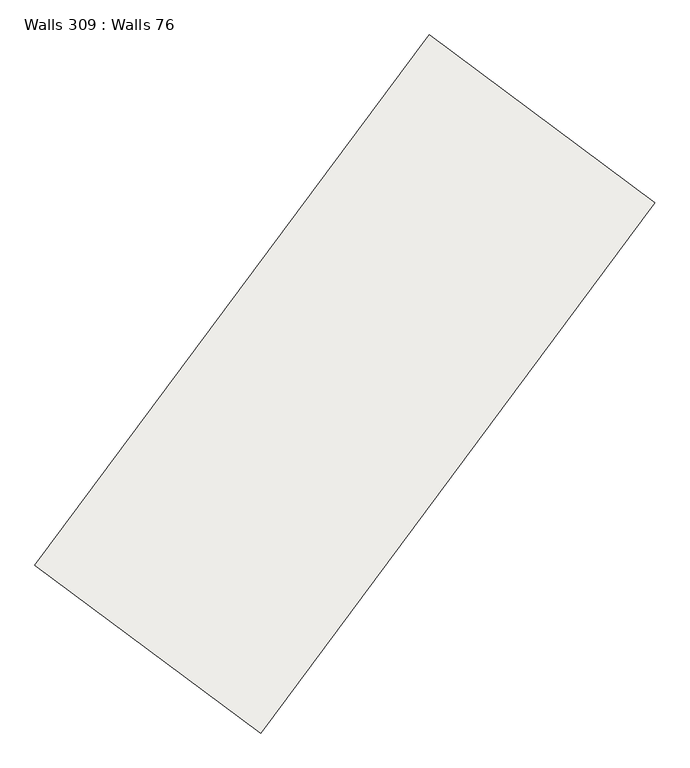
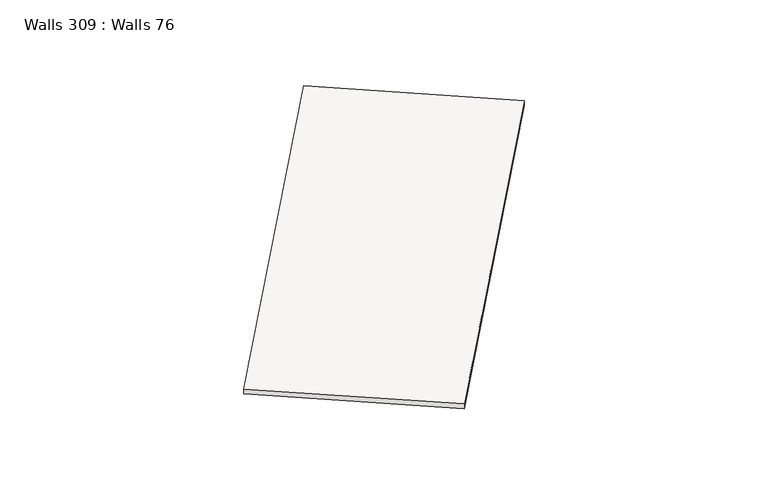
"""IFC4 building model written with IfcOpenShell, lengths in millimetres: slab geometry, Walls 309 : Walls 76."""

import ifcopenshell
import ifcopenshell.guid

model = None  # the IFC model being written
_history = None  # IfcOwnerHistory: only IFC2X3 demands one
_inside = {}  # id of a spatial element -> (the spatial element, [elements in it])
_under = {}  # id of a project, library or spatial element -> (it, [spatial elements below it])
_declared = {}  # id of a project -> (the project, [libraries it declares])
_typed = {}  # id of a type object -> (the type object, [elements of that type])
_made_of = {}  # id of a material, layer set ... -> (it, [elements and type objects made of it])


def new_model(schema):
    """Start an empty IFC model of exactly this schema.

    Asked for "IFC4X3", IfcOpenShell would pick the latest addendum, in which some entities
    have other attributes; the version numbers below select the first issue.
    IFC2X3 requires an IfcOwnerHistory on every rooted entity: one is made here for all.
    """
    global model, _history
    if schema == "IFC4X3":
        model = ifcopenshell.file(schema_version=(4, 3, 0, 0))
    else:
        model = ifcopenshell.file(schema=schema)
    _inside.clear()
    _under.clear()
    _declared.clear()
    _typed.clear()
    _made_of.clear()
    _history = None
    if model.schema == "IFC2X3":
        org = make("IfcOrganization", Name="unknown")
        user = make(
            "IfcPersonAndOrganization",
            ThePerson=make("IfcPerson", FamilyName="unknown"),
            TheOrganization=org,
        )
        app = make(
            "IfcApplication",
            ApplicationDeveloper=org,
            Version="unknown",
            ApplicationFullName="unknown",
            ApplicationIdentifier="unknown",
        )
        _history = make(
            "IfcOwnerHistory",
            OwningUser=user,
            OwningApplication=app,
            ChangeAction="ADDED",
            CreationDate=0,
        )
    return model


def make(cls, **values):
    """One entity of the class cls with the attributes given. An attribute that is None is left unset."""
    return model.create_entity(
        cls, **{name: value for name, value in values.items() if value is not None}
    )


def rooted(cls, **values):
    """An entity with a GlobalId (a new one), such as an element, a storey or a relation."""
    return make(cls, GlobalId=ifcopenshell.guid.new(), OwnerHistory=_history, **values)


def si_unit(unit_type, name, prefix=None):
    """IfcSIUnit, for example si_unit("LENGTHUNIT", "METRE", prefix="MILLI")."""
    return make("IfcSIUnit", UnitType=unit_type, Prefix=prefix, Name=name)


def assignment(units):
    """IfcUnitAssignment: the units of a project."""
    return None if units is None else make("IfcUnitAssignment", Units=units)


def point(xyz):
    """IfcCartesianPoint."""
    return None if xyz is None else make("IfcCartesianPoint", Coordinates=xyz)


def direction(xyz):
    """IfcDirection."""
    return None if xyz is None else make("IfcDirection", DirectionRatios=xyz)


def frame(location, z_axis=None, x_axis=None):
    """IfcAxis2Placement3D, a coordinate frame: its origin and axes. An axis left out is left unset."""
    return make(
        "IfcAxis2Placement3D",
        Location=point(location),
        Axis=direction(z_axis),
        RefDirection=direction(x_axis),
    )


def origin():
    """The frame at (0, 0, 0) with its axes left unset."""
    return frame((0.0, 0.0, 0.0))


def place(relative_to, where):
    """IfcLocalPlacement: puts the frame where relative to a parent placement (None: the world)."""
    return make(
        "IfcLocalPlacement", PlacementRelTo=relative_to, RelativePlacement=where
    )


def context(
    kind, dimensions, precision=None, world=None, true_north=None, identifier=None
):
    """IfcGeometricRepresentationContext, for example the 3D "Model" context."""
    return make(
        "IfcGeometricRepresentationContext",
        ContextIdentifier=identifier,
        ContextType=kind,
        CoordinateSpaceDimension=dimensions,
        Precision=precision,
        WorldCoordinateSystem=world,
        TrueNorth=true_north,
    )


def project(units=None, contexts=None):
    """IfcProject with its units and contexts."""
    return rooted(
        "IfcProject",
        Name="project",
        RepresentationContexts=contexts,
        UnitsInContext=assignment(units),
    )


def spatial(cls, under=None, at=None, **own):
    """A site, building, storey or space (cls), placed at a placement, below another one or the project."""
    s = rooted(cls, ObjectPlacement=at, **own)
    if under is not None:
        _under.setdefault(under.id(), (under, []))[1].append(s)
    return s


def faces_of(points, faces, orient=None, outer=None):
    """IfcFace entities. A face is a list of loops; a loop is a list of indices into points, from 0.

    orient and outer hold one flag for each loop. By default every Orientation is true, the
    first loop of a face is its IfcFaceOuterBound and the others are IfcFaceBound.
    """
    made = []
    for i, loops in enumerate(faces):
        bounds = []
        for j, loop in enumerate(loops):
            is_outer = j == 0 if outer is None else outer[i][j]
            bounds.append(
                make(
                    "IfcFaceOuterBound" if is_outer else "IfcFaceBound",
                    Bound=make("IfcPolyLoop", Polygon=[points[k] for k in loop]),
                    Orientation=True if orient is None else orient[i][j],
                )
            )
        made.append(make("IfcFace", Bounds=bounds))
    return made


def faceted_brep(points, faces, orient=None, outer=None, voids=None):
    """IfcFacetedBrep: a solid bounded by flat faces; with voids (closed shells), ...WithVoids."""
    shared = [point(p) for p in points]
    hull = make("IfcClosedShell", CfsFaces=faces_of(shared, faces, orient, outer))
    if voids is None:
        return make("IfcFacetedBrep", Outer=hull)
    return make(
        "IfcFacetedBrepWithVoids",
        Outer=hull,
        Voids=[
            make(cls, CfsFaces=faces_of(shared, fs, o, b)) for cls, fs, o, b in voids
        ],
    )


def shape(context_of_items, identifier, shape_type, items):
    """IfcShapeRepresentation: the items that make up one representation, for example the "Body"."""
    return make(
        "IfcShapeRepresentation",
        ContextOfItems=context_of_items,
        RepresentationIdentifier=identifier,
        RepresentationType=shape_type,
        Items=items,
    )


def source(mapping_origin, context_of_items, identifier, shape_type, items):
    """IfcRepresentationMap: a shape defined once, which mapped items show again and again."""
    return make(
        "IfcRepresentationMap",
        MappingOrigin=mapping_origin,
        MappedRepresentation=shape(context_of_items, identifier, shape_type, items),
    )


def transform(
    local_origin,
    x_axis=None,
    y_axis=None,
    z_axis=None,
    scale=None,
    scale2=None,
    scale3=None,
    uniform=True,
):
    """IfcCartesianTransformationOperator3D, or its non-uniform kind. x_axis, y_axis, z_axis: its Axis1, 2, 3."""
    if uniform:
        return make(
            "IfcCartesianTransformationOperator3D",
            Axis1=direction(x_axis),
            Axis2=direction(y_axis),
            LocalOrigin=point(local_origin),
            Scale=scale,
            Axis3=direction(z_axis),
        )
    return make(
        "IfcCartesianTransformationOperator3DnonUniform",
        Axis1=direction(x_axis),
        Axis2=direction(y_axis),
        LocalOrigin=point(local_origin),
        Scale=scale,
        Axis3=direction(z_axis),
        Scale2=scale2,
        Scale3=scale3,
    )


def mapped(mapping_source, mapping_target):
    """IfcMappedItem: shows the shape of a source again, moved by a transform."""
    return make(
        "IfcMappedItem", MappingSource=mapping_source, MappingTarget=mapping_target
    )


def made_of(thing, what):
    """Note that an element or type object is made of a material, layer set ...; save() writes the relation."""
    if what is not None:
        _made_of.setdefault(what.id(), (what, []))[1].append(thing)
    return thing


def element(
    cls,
    number,
    at=None,
    inside=None,
    cuts=None,
    type_object=None,
    material=None,
    context=None,
    identifier="Body",
    shape_type=None,
    held_by="IfcProductDefinitionShape",
    body=None,
    shapes=None,
    **own,
):
    """One element of the class cls, such as IfcWall. Its Tag is "e" and its number.

    at: its placement. inside: the storey or other place that contains it. cuts: it is an
    opening in that element (IfcRelVoidsElement). A single representation is given by context,
    identifier, shape_type and body (its items); several are given by shapes. held_by: the class
    of the entity that holds the representations. save() writes the other relations.
    """
    e = rooted(cls, Tag="e%d" % number, ObjectPlacement=at, **own)
    if body is not None:
        shapes = [shape(context, identifier, shape_type, body)]
    if shapes is not None:
        e.Representation = make(held_by, Representations=shapes)
    if inside is not None:
        _inside.setdefault(inside.id(), (inside, []))[1].append(e)
    if cuts is not None:
        rooted(
            "IfcRelVoidsElement", RelatingBuildingElement=cuts, RelatedOpeningElement=e
        )
    if type_object is not None:
        _typed.setdefault(type_object.id(), (type_object, []))[1].append(e)
    return made_of(e, material)


def aggregate(whole, parts):
    """IfcRelAggregates: a whole, such as a stair, and the parts it consists of."""
    return rooted("IfcRelAggregates", RelatingObject=whole, RelatedObjects=parts)


def save(model, path):
    """Write the relations noted so far, then the file.

    IfcRelAggregates (storeys below a building ...), IfcRelContainedInSpatialStructure (elements
    in a storey), IfcRelDefinesByType, IfcRelAssociatesMaterial and IfcRelDeclares: one each for
    every whole, place, type object, material and project.
    """
    for whole, parts in _under.values():
        aggregate(whole, parts)
    for where, things in _inside.values():
        rooted(
            "IfcRelContainedInSpatialStructure",
            RelatedElements=things,
            RelatingStructure=where,
        )
    for kind, things in _typed.values():
        rooted("IfcRelDefinesByType", RelatedObjects=things, RelatingType=kind)
    for what, things in _made_of.values():
        rooted("IfcRelAssociatesMaterial", RelatedObjects=things, RelatingMaterial=what)
    for by, libraries in _declared.values():
        rooted("IfcRelDeclares", RelatingContext=by, RelatedDefinitions=libraries)
    model.write(path)


def walls_309_walls_76_c2bd73b1(model_context):
    return source(origin(), model_context, "Body", "Brep", [
        faceted_brep([(73194.6150508, -73095.6232762, 639280.0), (73194.6150508, -73095.6232762, 639380.0), (76164.6854928, -75302.1321861, 639380.0), (76164.6854928, -75302.1321861, 639280.0), (68006.40228, -80079.2658774, 639150.0), (70976.472722, -82285.7747873, 639150.0), (70976.472722, -82285.7747873, 639250.0), (68006.40228, -80079.2658774, 639250.0)], [[[0, 1, 2, 3]], [[4, 5, 6, 7]], [[5, 4, 0, 3]], [[7, 6, 2, 1]], [[4, 7, 1, 0]], [[6, 5, 3, 2]]]),
    ])


if __name__ == "__main__":
    model = new_model("IFC4")
    model_context = context("Model", 3, world=origin())
    ifc_project = project(units=[si_unit("LENGTHUNIT", "METRE", prefix="MILLI")], contexts=[model_context])
    site = spatial("IfcSite", under=ifc_project)
    building = spatial("IfcBuilding", under=site)
    placement = place(None, origin())
    walls_309_walls_76_shape = walls_309_walls_76_c2bd73b1(model_context)
    element("IfcSlab", 1, ObjectType="Walls 309 : Walls 76", at=placement, inside=building, context=model_context, shape_type="MappedRepresentation", body=[
        mapped(walls_309_walls_76_shape, transform((0.0, 0.0, 0.0), x_axis=(1.0, 0.0, 0.0), y_axis=(0.0, 1.0, 0.0), z_axis=(0.0, 0.0, 1.0))),
    ])
    save(model, "model.ifc")
